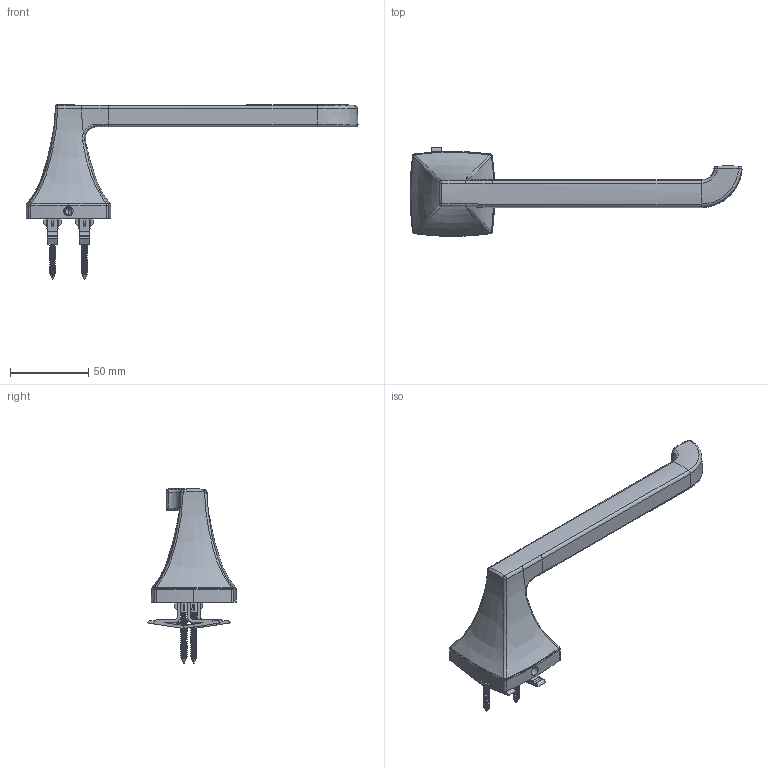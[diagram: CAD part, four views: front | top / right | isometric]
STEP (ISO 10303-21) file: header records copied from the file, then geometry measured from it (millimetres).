
FILE_DESCRIPTION (( 'STEP AP214' ), '1' );
FILE_NAME ('563TP_1.STEP', '2025-01-02T05:54:13', ( '' ), ( '' ), 'SwSTEP 2.0', 'SolidWorks 2023', '' );
FILE_SCHEMA (( 'AUTOMOTIVE_DESIGN' ));
Length unit declared in the file: inch
Products named in the file (1): 563TP_1
Bounding box: 211.88 x 56.56 x 111.35 mm (x, y, z)
Surface area: 31054.6 mm2 (no closed solid volume)
Topology: 0 solids, 9 shells, 403 faces, 1219 edges, 800 vertices
Faces by surface type: cylinder 119, plane 113, bspline 90, torus 46, cone 30, sphere 5
Entity records: 26875 total; most frequent: CARTESIAN_POINT 17112, ORIENTED_EDGE 2216, DIRECTION 1665, EDGE_CURVE 1212, VERTEX_POINT 800, AXIS2_PLACEMENT_3D 591, VECTOR 483, LINE 483
